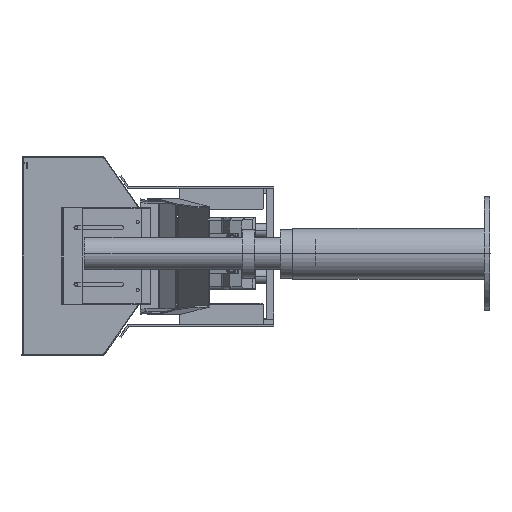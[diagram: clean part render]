
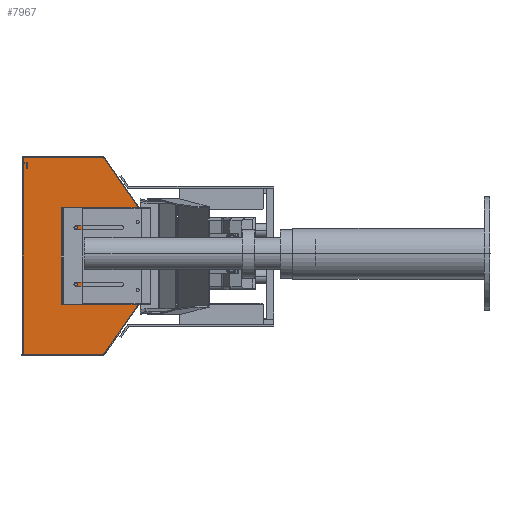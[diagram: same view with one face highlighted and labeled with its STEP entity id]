
A CAD part, left-side view. The second image highlights one B-rep face of the part: STEP entity #7967.
In plain terms, the highlighted planar face has unit normal (-1, 0, 0).
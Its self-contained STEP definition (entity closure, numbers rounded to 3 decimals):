
#1037 = EDGE_CURVE ( 'NONE', #7871, #31854, #9045, .T. ) ;
#1159 = VECTOR ( 'NONE', #21849, 1000. ) ;
#1851 = LINE ( 'NONE', #30717, #1159 ) ;
#2500 = ORIENTED_EDGE ( 'NONE', *, *, #29017, .T. ) ;
#3191 = EDGE_LOOP ( 'NONE', ( #32528, #2500 ) ) ;
#3279 = EDGE_CURVE ( 'NONE', #15222, #4897, #14863, .T. ) ;
#3478 = LINE ( 'NONE', #29265, #13309 ) ;
#4103 = EDGE_CURVE ( 'NONE', #18891, #20722, #33152, .T. ) ;
#4223 = LINE ( 'NONE', #14353, #29333 ) ;
#4471 = DIRECTION ( 'NONE',  ( 0., 1., 0. ) ) ;
#4577 = LINE ( 'NONE', #15214, #19936 ) ;
#4645 = ORIENTED_EDGE ( 'NONE', *, *, #28505, .T. ) ;
#4897 = VERTEX_POINT ( 'NONE', #25198 ) ;
#5314 = CARTESIAN_POINT ( 'NONE',  ( -4367.625, -134.782, -59.254 ) ) ;
#5951 = CARTESIAN_POINT ( 'NONE',  ( -4367.609, -240.638, -8.392 ) ) ;
#5953 = CARTESIAN_POINT ( 'NONE',  ( -4367.625, -134.782, -405.375 ) ) ;
#6160 = CARTESIAN_POINT ( 'NONE',  ( -4367.604, -275.818, -405.375 ) ) ;
#6707 = CARTESIAN_POINT ( 'NONE',  ( -4367.625, -134.782, -59.254 ) ) ;
#6724 = VERTEX_POINT ( 'NONE', #32699 ) ;
#6873 = CIRCLE ( 'NONE', #33200, 2.6 ) ;
#7121 = CARTESIAN_POINT ( 'NONE',  ( -4367.609, -239.113, -149.248 ) ) ;
#7342 = DIRECTION ( 'NONE',  ( 1., 0., 0. ) ) ;
#7826 = VERTEX_POINT ( 'NONE', #27965 ) ;
#7845 = EDGE_CURVE ( 'NONE', #28903, #25046, #1851, .T. ) ;
#7871 = VERTEX_POINT ( 'NONE', #29748 ) ;
#7967 = ADVANCED_FACE ( 'NONE', ( #32665, #21092, #15595 ), #20760, .F. ) ;
#8263 = EDGE_CURVE ( 'NONE', #27763, #7871, #4223, .T. ) ;
#8294 = AXIS2_PLACEMENT_3D ( 'NONE', #18452, #7342, #27941 ) ;
#9045 = LINE ( 'NONE', #5951, #22362 ) ;
#10767 = EDGE_CURVE ( 'NONE', #25046, #6724, #4577, .T. ) ;
#12243 = ORIENTED_EDGE ( 'NONE', *, *, #16673, .T. ) ;
#12601 = EDGE_LOOP ( 'NONE', ( #28088, #12243, #24208, #27532, #28784, #14920, #17054, #16392 ) ) ;
#12884 = CARTESIAN_POINT ( 'NONE',  ( -4367.611, -227.113, -282.314 ) ) ;
#12999 = AXIS2_PLACEMENT_3D ( 'NONE', #12884, #14942, #4471 ) ;
#13284 = DIRECTION ( 'NONE',  ( 1., 0., 0. ) ) ;
#13309 = VECTOR ( 'NONE', #19122, 1000. ) ;
#13370 = CARTESIAN_POINT ( 'NONE',  ( -4367.611, -227.113, -282.314 ) ) ;
#13452 = EDGE_CURVE ( 'NONE', #31854, #18891, #3478, .T. ) ;
#13891 = LINE ( 'NONE', #14225, #31898 ) ;
#14225 = CARTESIAN_POINT ( 'NONE',  ( -4367.609, -239.113, 17.736 ) ) ;
#14353 = CARTESIAN_POINT ( 'NONE',  ( -4367.646, -0.232, -149.248 ) ) ;
#14863 = CIRCLE ( 'NONE', #8294, 2.6 ) ;
#14920 = ORIENTED_EDGE ( 'NONE', *, *, #8263, .T. ) ;
#14942 = DIRECTION ( 'NONE',  ( 1., 0., 0. ) ) ;
#15214 = CARTESIAN_POINT ( 'NONE',  ( -4367.646, -0.232, -315.381 ) ) ;
#15222 = VERTEX_POINT ( 'NONE', #22985 ) ;
#15595 = FACE_OUTER_BOUND ( 'NONE', #12601, .T. ) ;
#16392 = ORIENTED_EDGE ( 'NONE', *, *, #13452, .T. ) ;
#16673 = EDGE_CURVE ( 'NONE', #20722, #28903, #32637, .T. ) ;
#17054 = ORIENTED_EDGE ( 'NONE', *, *, #1037, .T. ) ;
#18452 = CARTESIAN_POINT ( 'NONE',  ( -4367.611, -227.113, -182.314 ) ) ;
#18891 = VERTEX_POINT ( 'NONE', #6707 ) ;
#19122 = DIRECTION ( 'NONE',  ( 0., 1., 0. ) ) ;
#19253 = CARTESIAN_POINT ( 'NONE',  ( -4367.609, -242.282, -405.375 ) ) ;
#19936 = VECTOR ( 'NONE', #25362, 1000. ) ;
#20722 = VERTEX_POINT ( 'NONE', #5953 ) ;
#20760 = PLANE ( 'NONE',  #23647 ) ;
#21092 = FACE_BOUND ( 'NONE', #31893, .T. ) ;
#21114 = DIRECTION ( 'NONE',  ( 0., 0., -1. ) ) ;
#21278 = DIRECTION ( 'NONE',  ( 0., 1., 0. ) ) ;
#21657 = DIRECTION ( 'NONE',  ( 0., -1., 0. ) ) ;
#21849 = DIRECTION ( 'NONE',  ( 0., -0.569, 0.822 ) ) ;
#22362 = VECTOR ( 'NONE', #32403, 1000. ) ;
#22980 = CARTESIAN_POINT ( 'NONE',  ( -4367.646, -0.232, 17.736 ) ) ;
#22985 = CARTESIAN_POINT ( 'NONE',  ( -4367.611, -229.713, -182.314 ) ) ;
#23432 = CIRCLE ( 'NONE', #12999, 2.6 ) ;
#23527 = CARTESIAN_POINT ( 'NONE',  ( -4367.611, -229.713, -282.314 ) ) ;
#23647 = AXIS2_PLACEMENT_3D ( 'NONE', #22980, #33807, #25568 ) ;
#24201 = DIRECTION ( 'NONE',  ( 0., 0., 1. ) ) ;
#24208 = ORIENTED_EDGE ( 'NONE', *, *, #7845, .T. ) ;
#24847 = DIRECTION ( 'NONE',  ( 0., -1., 0. ) ) ;
#24941 = EDGE_CURVE ( 'NONE', #6724, #27763, #13891, .T. ) ;
#25046 = VERTEX_POINT ( 'NONE', #33257 ) ;
#25198 = CARTESIAN_POINT ( 'NONE',  ( -4367.612, -224.513, -182.314 ) ) ;
#25362 = DIRECTION ( 'NONE',  ( 0., 1., 0. ) ) ;
#25546 = AXIS2_PLACEMENT_3D ( 'NONE', #13370, #29187, #21278 ) ;
#25568 = DIRECTION ( 'NONE',  ( 0., 0., -1. ) ) ;
#25881 = VERTEX_POINT ( 'NONE', #23527 ) ;
#25885 = VECTOR ( 'NONE', #21657, 1000. ) ;
#27142 = VECTOR ( 'NONE', #21114, 1000. ) ;
#27532 = ORIENTED_EDGE ( 'NONE', *, *, #10767, .T. ) ;
#27763 = VERTEX_POINT ( 'NONE', #7121 ) ;
#27941 = DIRECTION ( 'NONE',  ( 0., 1., 0. ) ) ;
#27965 = CARTESIAN_POINT ( 'NONE',  ( -4367.612, -224.513, -282.314 ) ) ;
#28088 = ORIENTED_EDGE ( 'NONE', *, *, #4103, .T. ) ;
#28147 = CARTESIAN_POINT ( 'NONE',  ( -4367.604, -275.818, -59.254 ) ) ;
#28303 = CIRCLE ( 'NONE', #25546, 2.6 ) ;
#28505 = EDGE_CURVE ( 'NONE', #4897, #15222, #6873, .T. ) ;
#28784 = ORIENTED_EDGE ( 'NONE', *, *, #24941, .T. ) ;
#28903 = VERTEX_POINT ( 'NONE', #6160 ) ;
#29017 = EDGE_CURVE ( 'NONE', #25881, #7826, #28303, .T. ) ;
#29187 = DIRECTION ( 'NONE',  ( 1., 0., 0. ) ) ;
#29265 = CARTESIAN_POINT ( 'NONE',  ( -4367.609, -242.282, -59.254 ) ) ;
#29333 = VECTOR ( 'NONE', #24847, 1000. ) ;
#29748 = CARTESIAN_POINT ( 'NONE',  ( -4367.594, -338.065, -149.248 ) ) ;
#30268 = ORIENTED_EDGE ( 'NONE', *, *, #3279, .T. ) ;
#30717 = CARTESIAN_POINT ( 'NONE',  ( -4367.609, -240.638, -456.237 ) ) ;
#31501 = EDGE_CURVE ( 'NONE', #7826, #25881, #23432, .T. ) ;
#31678 = DIRECTION ( 'NONE',  ( 0., 1., 0. ) ) ;
#31854 = VERTEX_POINT ( 'NONE', #28147 ) ;
#31893 = EDGE_LOOP ( 'NONE', ( #4645, #30268 ) ) ;
#31898 = VECTOR ( 'NONE', #24201, 1000. ) ;
#32403 = DIRECTION ( 'NONE',  ( 0., 0.569, 0.822 ) ) ;
#32528 = ORIENTED_EDGE ( 'NONE', *, *, #31501, .T. ) ;
#32637 = LINE ( 'NONE', #19253, #25885 ) ;
#32665 = FACE_BOUND ( 'NONE', #3191, .T. ) ;
#32699 = CARTESIAN_POINT ( 'NONE',  ( -4367.609, -239.113, -315.381 ) ) ;
#33152 = LINE ( 'NONE', #5314, #27142 ) ;
#33200 = AXIS2_PLACEMENT_3D ( 'NONE', #33918, #13284, #31678 ) ;
#33257 = CARTESIAN_POINT ( 'NONE',  ( -4367.594, -338.065, -315.381 ) ) ;
#33807 = DIRECTION ( 'NONE',  ( 1., 0., 0. ) ) ;
#33918 = CARTESIAN_POINT ( 'NONE',  ( -4367.611, -227.113, -182.314 ) ) ;
